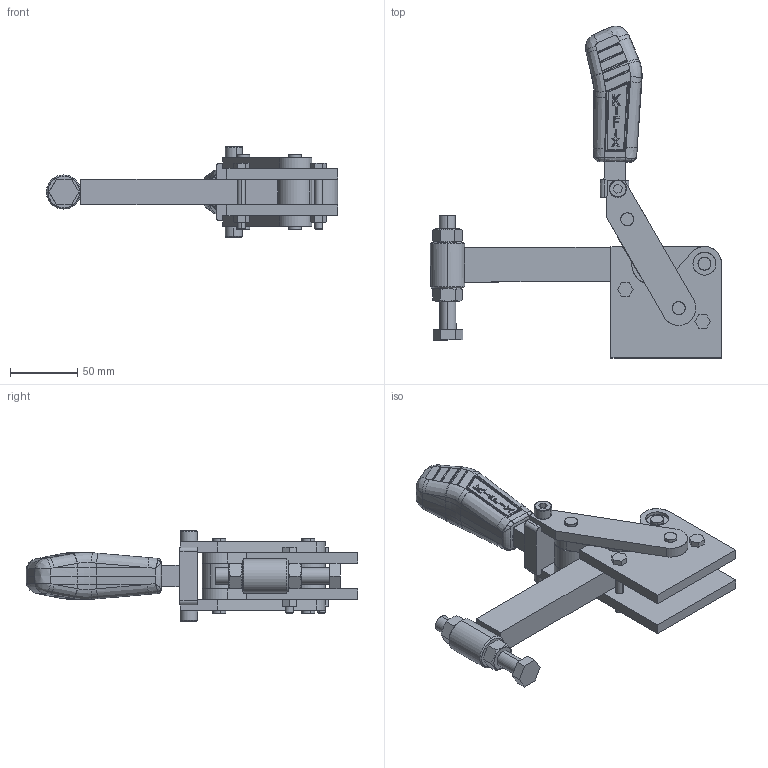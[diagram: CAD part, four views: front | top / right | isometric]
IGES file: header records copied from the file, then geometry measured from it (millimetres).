
Start section: SolidWorks IGES file using analytic representation for surfaces
Global section: file name: C:\Projetos\Grampos\KF-845\KF-845.IGS; native system: SolidWorks 2013; preprocessor: SolidWorks 2013; author: Ricardo; date: 140813.182125; units: millimetre
Bounding box: 215.98 x 246.13 x 66.86 mm (x, y, z)
Surface area: 129943.2 mm2 (no closed solid volume)
Topology: 0 solids, 0 shells, 842 faces, 10628 edges, 10606 vertices
Faces by surface type: bspline 538, revolution 304
